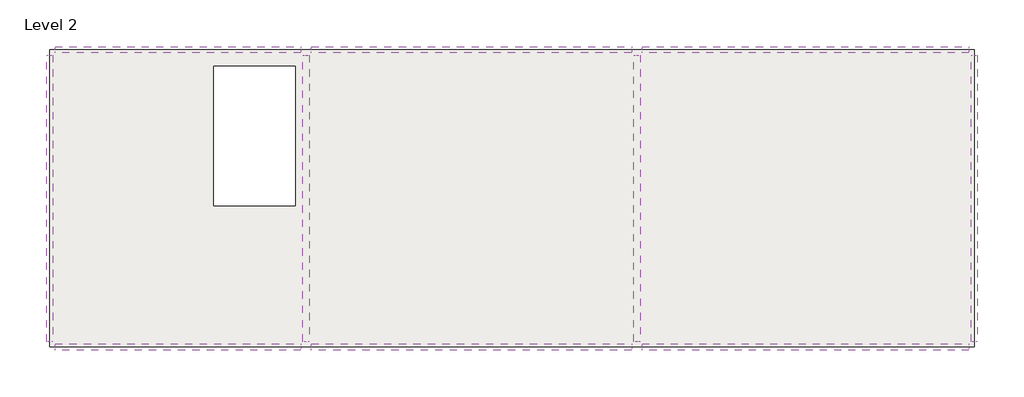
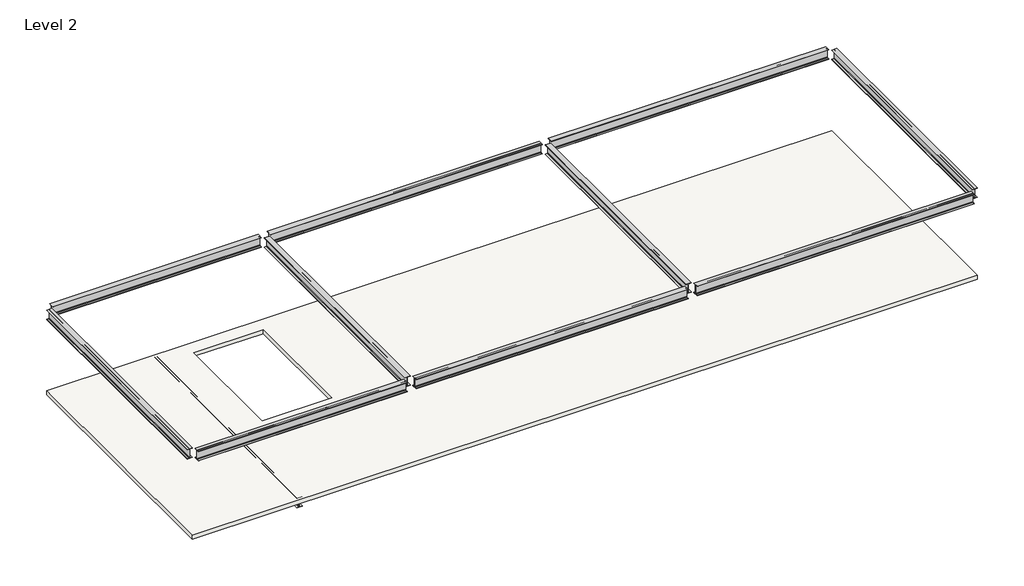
# One storey: 11 beams, 1 slab.
"""IFC4 building model written with IfcOpenShell, lengths in millimetres."""

from ifc_helpers import new_model, si_unit, frame, origin, place, context, project, spatial, polyline, outline, extrude, transform, mapped, element, save
from components import w_wide_flange_w12x26_3f871b78, w_wide_flange_w12x26_4810f4f7, w_wide_flange_w12x26_0d1df96e, w_wide_flange_w12x26_08aea776, w_wide_flange_w12x26_b457d077

model = new_model("IFC4")

# Units and contexts
model_context = context("Model", 3, world=origin())
ifc_project = project(units=[si_unit("LENGTHUNIT", "METRE", prefix="MILLI")], contexts=[model_context])

# Site, building, storey
site = spatial("IfcSite", under=ifc_project)
building = spatial("IfcBuilding", under=site)
storey = spatial("IfcBuildingStorey", under=building, Name="Level 2", Elevation=3048.0)

# Beams
placement = place(None, origin())
w_wide_flange_w12x26_shape = w_wide_flange_w12x26_3f871b78(model_context)
element("IfcBeam", 1, ObjectType="W-Wide Flange : W12X26", at=placement, inside=storey, context=model_context, shape_type="MappedRepresentation", body=[
    mapped(w_wide_flange_w12x26_shape, transform((-18444.2117074, 20379.1714933, 5636.021875), x_axis=(1.0, 0.0, 0.0), y_axis=(0.0, 1.0, 0.0), z_axis=(0.0, 0.0, 1.0))),
])
element("IfcBeam", 2, ObjectType="W-Wide Flange : W12X26", at=placement, inside=storey, context=model_context, shape_type="MappedRepresentation", body=[
    mapped(w_wide_flange_w12x26_shape, transform((-18444.2117074, 12590.8050464, 5636.021875), x_axis=(-1.0, 0.0, 0.0), y_axis=(0.0, -1.0, 0.0), z_axis=(0.0, 0.0, 1.0))),
])
w_wide_flange_w12x26_2_shape = w_wide_flange_w12x26_4810f4f7(model_context)
element("IfcBeam", 3, ObjectType="W-Wide Flange : W12X26", at=placement, inside=storey, context=model_context, shape_type="MappedRepresentation", body=[
    mapped(w_wide_flange_w12x26_2_shape, transform((-21803.8991943, 16484.9882699, 5636.021875), x_axis=(0.0, -1.0, 0.0), y_axis=(1.0, 0.0, 0.0), z_axis=(0.0, 0.0, 1.0))),
])
element("IfcBeam", 4, ObjectType="W-Wide Flange : W12X26", at=placement, inside=storey, context=model_context, shape_type="MappedRepresentation", body=[
    mapped(w_wide_flange_w12x26_2_shape, transform((-15084.5242206, 16484.9882699, 5636.021875), x_axis=(0.0, -1.0, 0.0), y_axis=(1.0, 0.0, 0.0), z_axis=(0.0, 0.0, 1.0))),
])
element("IfcBeam", 5, ObjectType="W-Wide Flange : W12X26", at=placement, inside=storey, context=model_context, shape_type="MappedRepresentation", body=[
    mapped(w_wide_flange_w12x26_2_shape, transform((-6411.4991943, 16484.9882699, 5636.021875), x_axis=(0.0, -1.0, 0.0), y_axis=(1.0, 0.0, 0.0), z_axis=(0.0, 0.0, 1.0))),
])
element("IfcBeam", 6, ObjectType="W-Wide Flange : W12X26", at=placement, inside=storey, context=model_context, shape_type="MappedRepresentation", body=[
    mapped(w_wide_flange_w12x26_2_shape, transform((2427.7008057, 16484.9882699, 5636.021875), x_axis=(0.0, 1.0, 0.0), y_axis=(-1.0, 0.0, 0.0), z_axis=(0.0, 0.0, 1.0))),
])
w_wide_flange_w12x26_3_shape = w_wide_flange_w12x26_0d1df96e(model_context)
element("IfcBeam", 7, ObjectType="W-Wide Flange : W12X26", at=placement, inside=storey, context=model_context, shape_type="MappedRepresentation", body=[
    mapped(w_wide_flange_w12x26_3_shape, transform((-10748.0117074, 20379.1714933, 5636.021875), x_axis=(1.0, 0.0, 0.0), y_axis=(0.0, 1.0, 0.0), z_axis=(0.0, 0.0, 1.0))),
])
element("IfcBeam", 8, ObjectType="W-Wide Flange : W12X26", at=placement, inside=storey, context=model_context, shape_type="MappedRepresentation", body=[
    mapped(w_wide_flange_w12x26_3_shape, transform((-10748.0117074, 12590.8050464, 5636.021875), x_axis=(1.0, 0.0, 0.0), y_axis=(0.0, 1.0, 0.0), z_axis=(0.0, 0.0, 1.0))),
])
w_wide_flange_w12x26_4_shape = w_wide_flange_w12x26_08aea776(model_context)
element("IfcBeam", 9, ObjectType="W-Wide Flange : W12X26", at=placement, inside=storey, context=model_context, shape_type="MappedRepresentation", body=[
    mapped(w_wide_flange_w12x26_4_shape, transform((-1991.8991943, 20379.1714933, 5636.021875), x_axis=(1.0, 0.0, 0.0), y_axis=(0.0, 1.0, 0.0), z_axis=(0.0, 0.0, 1.0))),
])
element("IfcBeam", 10, ObjectType="W-Wide Flange : W12X26", at=placement, inside=storey, context=model_context, shape_type="MappedRepresentation", body=[
    mapped(w_wide_flange_w12x26_4_shape, transform((-1991.8991943, 12590.8050464, 5636.021875), x_axis=(1.0, 0.0, 0.0), y_axis=(0.0, 1.0, 0.0), z_axis=(0.0, 0.0, 1.0))),
])
w_wide_flange_w12x26_5_shape = w_wide_flange_w12x26_b457d077(model_context)
element("IfcBeam", 11, ObjectType="W-Wide Flange : W12X26", at=placement, inside=storey, context=model_context, shape_type="MappedRepresentation", body=[
    mapped(w_wide_flange_w12x26_5_shape, transform((-18444.2117074, 16484.9882699, 2892.821875), x_axis=(0.0, -1.0, 0.0), y_axis=(1.0, 0.0, 0.0), z_axis=(0.0, 0.0, 1.0))),
])

# Slab
element("IfcSlab", 12, ObjectType="3\" LW Concrete on 2\" Metal Deck", at=placement, inside=storey, context=model_context, shape_type="SweptSolid", body=[
    extrude(outline(polyline([(2427.7008057, 20379.1714933), (2427.7008057, 12590.8050464), (-21803.8991943, 12590.8050464), (-21803.8991943, 20379.1714933), (2427.7008057, 20379.1714933)]), holes=[polyline([(-17505.2738786, 16289.165023), (-15371.6738786, 16289.165023), (-15371.6738786, 19946.765023), (-17505.2738786, 19946.765023), (-17505.2738786, 16289.165023)])]), frame((0.0, 0.0, 2921.0), z_axis=(0.0, 0.0, 1.0), x_axis=(1.0, 0.0, 0.0)), (0.0, 0.0, 1.0), 127.0),
])

save(model, "model.ifc")
